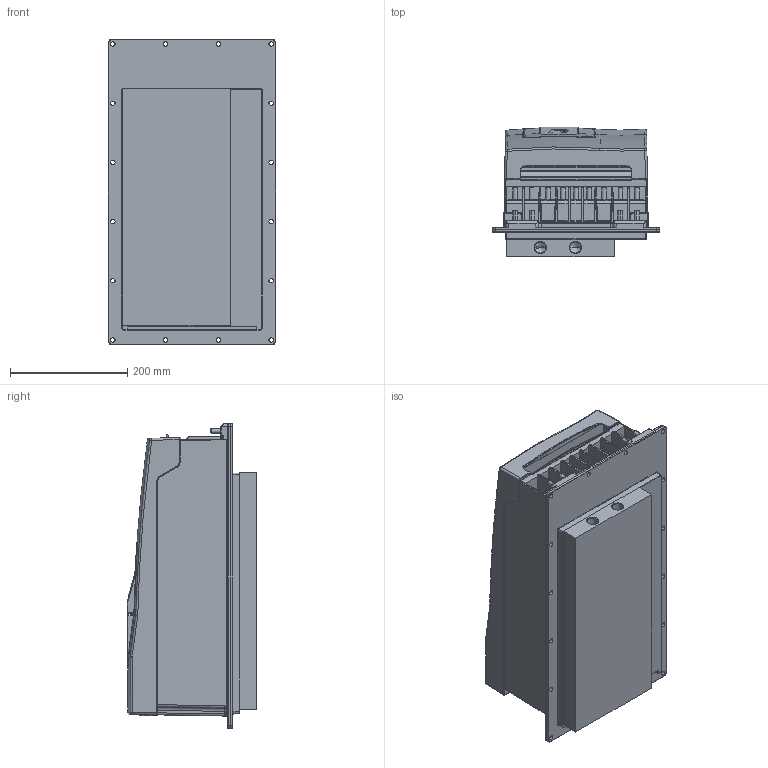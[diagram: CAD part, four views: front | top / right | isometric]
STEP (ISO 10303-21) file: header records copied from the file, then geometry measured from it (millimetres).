
FILE_DESCRIPTION (( 'STEP AP214' ), '1' );
FILE_NAME ('10062122_000.STEP', '2023-01-12T14:15:08', ( '' ), ( '' ), 'SwSTEP 2.0', 'SolidWorks 2022', '' );
FILE_SCHEMA (( 'AUTOMOTIVE_DESIGN' ));
Length unit declared in the file: millimetre
Products named in the file (13): Kundenmodell^10051076_000_Kundenmodell mit Geberbuchsen; Kundenmodell^10061997_000; 10062122_000; Kundenmodell^10061793_000; Kundemmodell^10027377_000; 10051076_000_Kundenmodell; 10061997_000_Leistungsteil F6-6 TK5 (Kundenmodell); 10061793_000_Deckelbaugruppe F6-6 (Kundenmodell); 10059764_000_Blindabdeckung (Kundenmodell); 10027377_000_Kundenmodell; Kundenmodell^10059764_000; 10027052_000_Gehäusebaugruppe F6-6 (Kundenmodell); Kundenmodell^10027052_000
Assembly tree (12 placements, depth 4):
  10062122_000
    10061997_000_Leistungsteil F6-6 TK5 (Kundenmodell)
      10027377_000_Kundenmodell
        Kundemmodell^10027377_000
      Kundenmodell^10061997_000
    10027052_000_Gehäusebaugruppe F6-6 (Kundenmodell)
      10061793_000_Deckelbaugruppe F6-6 (Kundenmodell)
        Kundenmodell^10061793_000
      Kundenmodell^10027052_000
    10051076_000_Kundenmodell
      10059764_000_Blindabdeckung (Kundenmodell)
        Kundenmodell^10059764_000
      Kundenmodell^10051076_000_Kundenmodell mit Geberbuchsen
Bounding box: 285 x 221.4 x 520 mm (x, y, z)
Volume: 21325656 mm3; surface area: 1291509 mm2
Topology: 13 solids, 19 shells, 2772 faces, 6993 edges, 4170 vertices
Faces by surface type: cylinder 1006, plane 869, bspline 611, sphere 106, torus 104, cone 76
Entity records: 94465 total; most frequent: CARTESIAN_POINT 33269, ORIENTED_EDGE 13672, DIRECTION 11670, EDGE_CURVE 6836, AXIS2_PLACEMENT_3D 4195, VERTEX_POINT 4168, LINE 3280, VECTOR 3280
